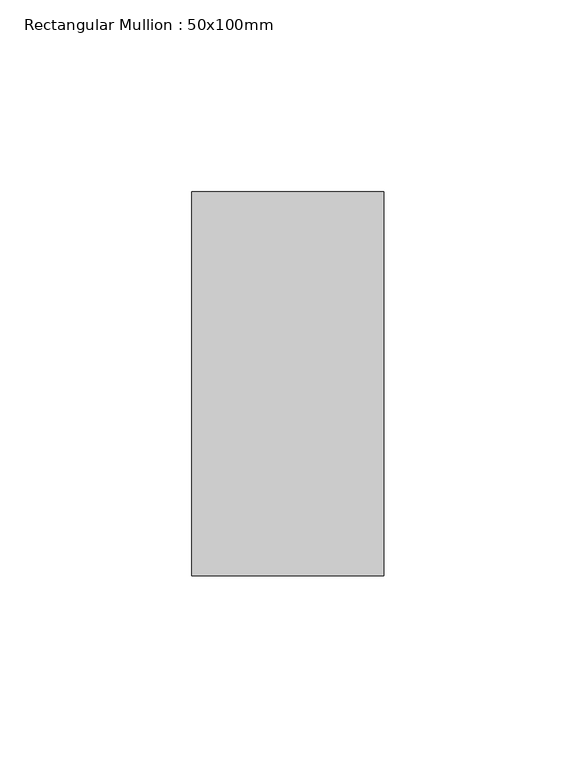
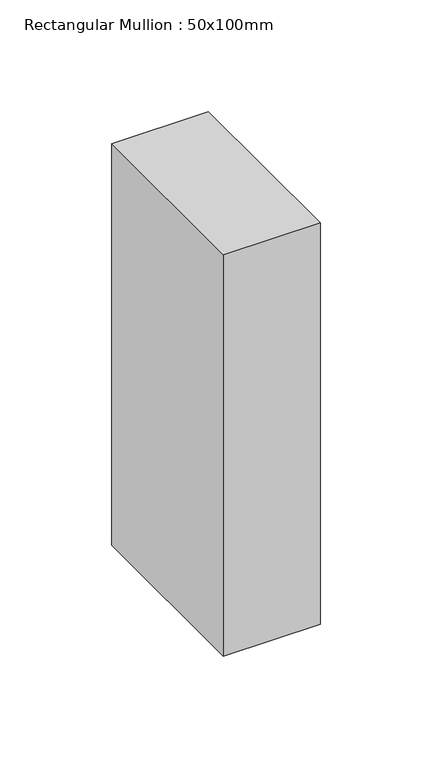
"""IFC4 building model written with IfcOpenShell, lengths in millimetres: member geometry, Rectangular Mullion : 50x100mm."""

from ifc_helpers import new_model, si_unit, frame, origin, place, context, project, spatial, polyline, outline, extrude, source, transform, mapped, element, save


def rectangular_mullion_50x100mm_e1a1ec18(model_context):
    return source(origin(), model_context, "Body", "SweptSolid", [
        extrude(outline(polyline([(0.0, 50.0), (0.0, -50.0), (-50.0, -50.0), (-50.0, 50.0), (0.0, 50.0)])), frame((0.0, 0.0, -219.5572956), z_axis=(0.0, 0.0, 1.0), x_axis=(1.0, 0.0, 0.0)), (0.0, 0.0, 1.0), 219.5572956),
    ])


if __name__ == "__main__":
    model = new_model("IFC4")
    model_context = context("Model", 3, world=origin())
    ifc_project = project(units=[si_unit("LENGTHUNIT", "METRE", prefix="MILLI")], contexts=[model_context])
    site = spatial("IfcSite", under=ifc_project)
    building = spatial("IfcBuilding", under=site)
    placement = place(None, origin())
    rectangular_mullion_50x100mm_shape = rectangular_mullion_50x100mm_e1a1ec18(model_context)
    element("IfcMember", 1, ObjectType="Rectangular Mullion : 50x100mm", at=placement, inside=building, context=model_context, shape_type="MappedRepresentation", body=[
        mapped(rectangular_mullion_50x100mm_shape, transform((0.0, 0.0, 0.0), x_axis=(1.0, 0.0, 0.0), y_axis=(0.0, 1.0, 0.0), z_axis=(0.0, 0.0, 1.0))),
    ])
    save(model, "model.ifc")
